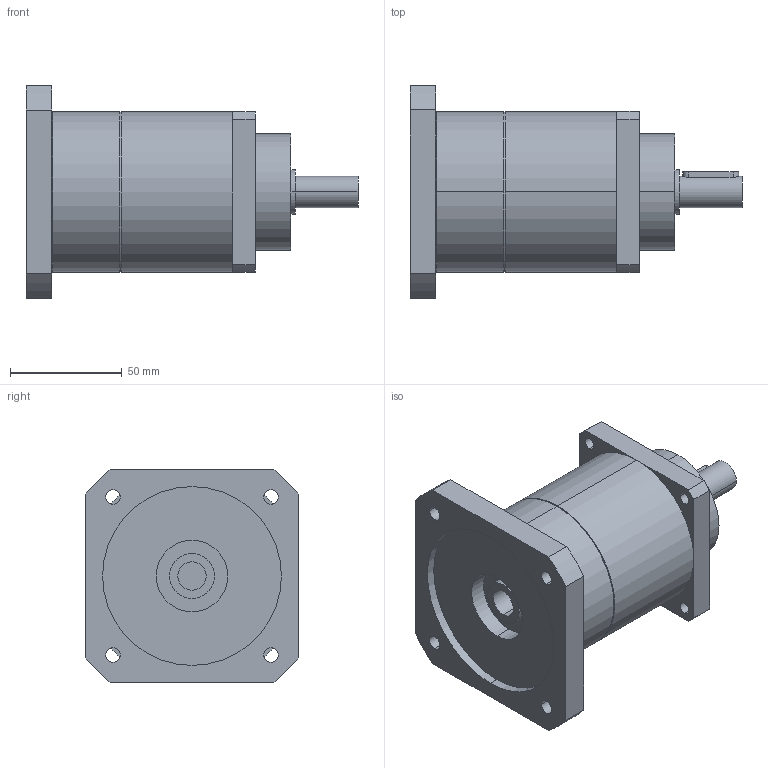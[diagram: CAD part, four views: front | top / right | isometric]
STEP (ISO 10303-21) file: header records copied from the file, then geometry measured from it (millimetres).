
FILE_DESCRIPTION(('CoCreate Modeling STEP Export'),'2;1');
FILE_NAME('GPT75_ig-9-12-16-20-25-28-35-40-50-70-100_14_B5T_12.7_P07.stp','2014-08-27T13:35:08',(''),(''),'CoCreate Modeling STEP processor for AP214 (Solid Model)','CoCreate Modeling 16.00C 25-Feb-2009 (C) Parametric Technology GmbH','');
FILE_SCHEMA(('AUTOMOTIVE_DESIGN { 1 0 10303 214 1 1 1 1 }'));
Length unit declared in the file: millimetre
Products named in the file (2): GPT75_ig-9-12-16-20-25-28-35-40-50-70-100_14_B5T_12.7_P07
Assembly tree (1 placements, depth 2):
  GPT75_ig-9-12-16-20-25-28-35-40-50-70-100_14_B5T_12.7_P07
    GPT75_ig-9-12-16-20-25-28-35-40-50-70-100_14_B5T_12.7_P07
Bounding box: 148.5 x 95 x 95 mm (x, y, z)
Volume: 490024.1 mm3; surface area: 54034.6 mm2
Topology: 1 solids, 1 shells, 77 faces, 190 edges, 125 vertices
Faces by surface type: cylinder 46, plane 27, cone 4
Entity records: 2464 total; most frequent: CARTESIAN_POINT 715, ORIENTED_EDGE 380, DIRECTION 320, EDGE_CURVE 190, VERTEX_POINT 125, AXIS2_PLACEMENT_3D 118, EDGE_LOOP 103, VECTOR 84
